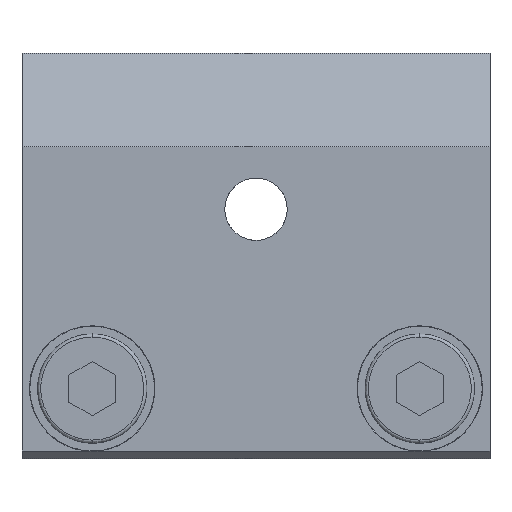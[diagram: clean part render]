
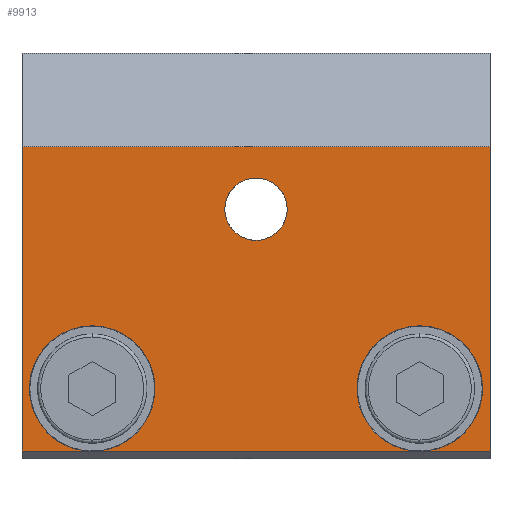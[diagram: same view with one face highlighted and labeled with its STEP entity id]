
A CAD part, left-side view. The second image highlights one B-rep face of the part: STEP entity #9913.
In plain terms, the highlighted planar face has unit normal (-1, 0, 0).
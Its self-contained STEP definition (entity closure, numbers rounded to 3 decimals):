
#408 = CARTESIAN_POINT ( 'NONE',  ( -95.478, 4.671, -8.5 ) ) ;
#615 = CARTESIAN_POINT ( 'NONE',  ( -95.478, 4.223, -12.5 ) ) ;
#806 = VERTEX_POINT ( 'NONE', #8724 ) ;
#1241 = EDGE_CURVE ( 'NONE', #9279, #806, #13714, .T. ) ;
#1617 = DIRECTION ( 'NONE',  ( 0., 0., -1. ) ) ;
#2071 = DIRECTION ( 'NONE',  ( 0., -1., 0. ) ) ;
#2186 = CARTESIAN_POINT ( 'NONE',  ( -95.478, 17.171, 3. ) ) ;
#2506 = ORIENTED_EDGE ( 'NONE', *, *, #19883, .F. ) ;
#2664 = LINE ( 'NONE', #21141, #7988 ) ;
#3027 = AXIS2_PLACEMENT_3D ( 'NONE', #408, #13520, #18870 ) ;
#3352 = DIRECTION ( 'NONE',  ( 0., 1., 0. ) ) ;
#3597 = CARTESIAN_POINT ( 'NONE',  ( -95.478, 15.171, -12.5 ) ) ;
#3721 = ORIENTED_EDGE ( 'NONE', *, *, #13702, .F. ) ;
#3746 = EDGE_CURVE ( 'NONE', #16369, #11915, #20769, .T. ) ;
#3959 = LINE ( 'NONE', #5515, #9250 ) ;
#4040 = DIRECTION ( 'NONE',  ( 0., -1., 0. ) ) ;
#4218 = CARTESIAN_POINT ( 'NONE',  ( -95.478, 25.671, -8.5 ) ) ;
#4613 = VERTEX_POINT ( 'NONE', #14635 ) ;
#4860 = AXIS2_PLACEMENT_3D ( 'NONE', #4218, #18355, #18278 ) ;
#5401 = VERTEX_POINT ( 'NONE', #9698 ) ;
#5515 = CARTESIAN_POINT ( 'NONE',  ( -95.478, 30.171, 0. ) ) ;
#5528 = DIRECTION ( 'NONE',  ( 0., -1., 0. ) ) ;
#5876 = EDGE_CURVE ( 'NONE', #5401, #17614, #21490, .T. ) ;
#6025 = VERTEX_POINT ( 'NONE', #14323 ) ;
#6238 = EDGE_CURVE ( 'NONE', #4613, #6025, #9468, .T. ) ;
#6473 = DIRECTION ( 'NONE',  ( 0., 0., 1. ) ) ;
#6549 = DIRECTION ( 'NONE',  ( -1., 0., 0. ) ) ;
#6651 = EDGE_CURVE ( 'NONE', #11915, #16369, #12488, .T. ) ;
#6831 = ORIENTED_EDGE ( 'NONE', *, *, #3746, .F. ) ;
#7196 = CARTESIAN_POINT ( 'NONE',  ( -95.478, 0.171, 7. ) ) ;
#7445 = AXIS2_PLACEMENT_3D ( 'NONE', #9427, #16544, #2071 ) ;
#7448 = AXIS2_PLACEMENT_3D ( 'NONE', #16349, #14596, #4040 ) ;
#7988 = VECTOR ( 'NONE', #5528, 1000. ) ;
#8724 = CARTESIAN_POINT ( 'NONE',  ( -95.478, 0.171, 7. ) ) ;
#8984 = DIRECTION ( 'NONE',  ( 1., 0., 0. ) ) ;
#9250 = VECTOR ( 'NONE', #12935, 1000. ) ;
#9279 = VERTEX_POINT ( 'NONE', #19557 ) ;
#9427 = CARTESIAN_POINT ( 'NONE',  ( -95.478, 15.171, 3. ) ) ;
#9468 = LINE ( 'NONE', #22085, #21750 ) ;
#9698 = CARTESIAN_POINT ( 'NONE',  ( -95.478, 26.119, -12.5 ) ) ;
#9913 = ADVANCED_FACE ( 'NONE', ( #17934, #22117 ), #21401, .F. ) ;
#10114 = CARTESIAN_POINT ( 'NONE',  ( -95.478, 4.671, -8.5 ) ) ;
#10647 = CARTESIAN_POINT ( 'NONE',  ( -95.478, 4.671, -4.475 ) ) ;
#10667 = EDGE_CURVE ( 'NONE', #6025, #14343, #16532, .T. ) ;
#10914 = CIRCLE ( 'NONE', #14446, 4.025 ) ;
#11206 = VECTOR ( 'NONE', #19378, 1000. ) ;
#11231 = VERTEX_POINT ( 'NONE', #615 ) ;
#11380 = DIRECTION ( 'NONE',  ( 0., 1., 0. ) ) ;
#11576 = EDGE_CURVE ( 'NONE', #17404, #17614, #3959, .T. ) ;
#11759 = LINE ( 'NONE', #19534, #11206 ) ;
#11915 = VERTEX_POINT ( 'NONE', #17097 ) ;
#12488 = CIRCLE ( 'NONE', #7445, 2. ) ;
#12723 = VERTEX_POINT ( 'NONE', #10647 ) ;
#12903 = DIRECTION ( 'NONE',  ( -1., 0., 0. ) ) ;
#12935 = DIRECTION ( 'NONE',  ( 0., 0., -1. ) ) ;
#13484 = ORIENTED_EDGE ( 'NONE', *, *, #10667, .F. ) ;
#13520 = DIRECTION ( 'NONE',  ( -1., 0., 0. ) ) ;
#13702 = EDGE_CURVE ( 'NONE', #14343, #5401, #10914, .T. ) ;
#13707 = ORIENTED_EDGE ( 'NONE', *, *, #18700, .F. ) ;
#13714 = LINE ( 'NONE', #16928, #20178 ) ;
#13806 = ORIENTED_EDGE ( 'NONE', *, *, #14408, .F. ) ;
#14323 = CARTESIAN_POINT ( 'NONE',  ( -95.478, 25.223, -12.5 ) ) ;
#14343 = VERTEX_POINT ( 'NONE', #21931 ) ;
#14408 = EDGE_CURVE ( 'NONE', #11231, #12723, #22176, .T. ) ;
#14446 = AXIS2_PLACEMENT_3D ( 'NONE', #18485, #12903, #18552 ) ;
#14596 = DIRECTION ( 'NONE',  ( -1., 0., 0. ) ) ;
#14635 = CARTESIAN_POINT ( 'NONE',  ( -95.478, 5.119, -12.5 ) ) ;
#15703 = CIRCLE ( 'NONE', #3027, 4.025 ) ;
#16013 = ORIENTED_EDGE ( 'NONE', *, *, #6238, .F. ) ;
#16305 = EDGE_LOOP ( 'NONE', ( #16367, #6831 ) ) ;
#16349 = CARTESIAN_POINT ( 'NONE',  ( -95.478, 15.171, 3. ) ) ;
#16367 = ORIENTED_EDGE ( 'NONE', *, *, #6651, .F. ) ;
#16369 = VERTEX_POINT ( 'NONE', #2186 ) ;
#16532 = CIRCLE ( 'NONE', #4860, 4.025 ) ;
#16544 = DIRECTION ( 'NONE',  ( -1., 0., 0. ) ) ;
#16928 = CARTESIAN_POINT ( 'NONE',  ( -95.478, 0.171, 0. ) ) ;
#17005 = DIRECTION ( 'NONE',  ( 0., 0., 1. ) ) ;
#17097 = CARTESIAN_POINT ( 'NONE',  ( -95.478, 13.171, 3. ) ) ;
#17234 = ORIENTED_EDGE ( 'NONE', *, *, #11576, .T. ) ;
#17404 = VERTEX_POINT ( 'NONE', #23085 ) ;
#17461 = EDGE_LOOP ( 'NONE', ( #20934, #3721, #13484, #16013, #13707, #13806, #2506, #20772, #19521, #17234 ) ) ;
#17614 = VERTEX_POINT ( 'NONE', #18762 ) ;
#17934 = FACE_BOUND ( 'NONE', #16305, .T. ) ;
#18278 = DIRECTION ( 'NONE',  ( 0., 0., 1. ) ) ;
#18355 = DIRECTION ( 'NONE',  ( -1., 0., 0. ) ) ;
#18485 = CARTESIAN_POINT ( 'NONE',  ( -95.478, 25.671, -8.5 ) ) ;
#18552 = DIRECTION ( 'NONE',  ( 0., 0., 1. ) ) ;
#18700 = EDGE_CURVE ( 'NONE', #12723, #4613, #15703, .T. ) ;
#18762 = CARTESIAN_POINT ( 'NONE',  ( -95.478, 30.171, -12.5 ) ) ;
#18833 = EDGE_CURVE ( 'NONE', #17404, #806, #2664, .T. ) ;
#18870 = DIRECTION ( 'NONE',  ( 0., 0., 1. ) ) ;
#19378 = DIRECTION ( 'NONE',  ( 0., 1., 0. ) ) ;
#19521 = ORIENTED_EDGE ( 'NONE', *, *, #18833, .F. ) ;
#19534 = CARTESIAN_POINT ( 'NONE',  ( -95.478, 15.171, -12.5 ) ) ;
#19557 = CARTESIAN_POINT ( 'NONE',  ( -95.478, 0.171, -12.5 ) ) ;
#19830 = AXIS2_PLACEMENT_3D ( 'NONE', #7196, #8984, #1617 ) ;
#19883 = EDGE_CURVE ( 'NONE', #9279, #11231, #11759, .T. ) ;
#20178 = VECTOR ( 'NONE', #17005, 1000. ) ;
#20397 = VECTOR ( 'NONE', #3352, 1000. ) ;
#20769 = CIRCLE ( 'NONE', #7448, 2. ) ;
#20772 = ORIENTED_EDGE ( 'NONE', *, *, #1241, .T. ) ;
#20934 = ORIENTED_EDGE ( 'NONE', *, *, #5876, .F. ) ;
#21141 = CARTESIAN_POINT ( 'NONE',  ( -95.478, 15.171, 7. ) ) ;
#21380 = AXIS2_PLACEMENT_3D ( 'NONE', #10114, #6549, #6473 ) ;
#21401 = PLANE ( 'NONE',  #19830 ) ;
#21490 = LINE ( 'NONE', #3597, #20397 ) ;
#21750 = VECTOR ( 'NONE', #11380, 1000. ) ;
#21931 = CARTESIAN_POINT ( 'NONE',  ( -95.478, 25.671, -4.475 ) ) ;
#22085 = CARTESIAN_POINT ( 'NONE',  ( -95.478, 15.171, -12.5 ) ) ;
#22117 = FACE_OUTER_BOUND ( 'NONE', #17461, .T. ) ;
#22176 = CIRCLE ( 'NONE', #21380, 4.025 ) ;
#23085 = CARTESIAN_POINT ( 'NONE',  ( -95.478, 30.171, 7. ) ) ;
